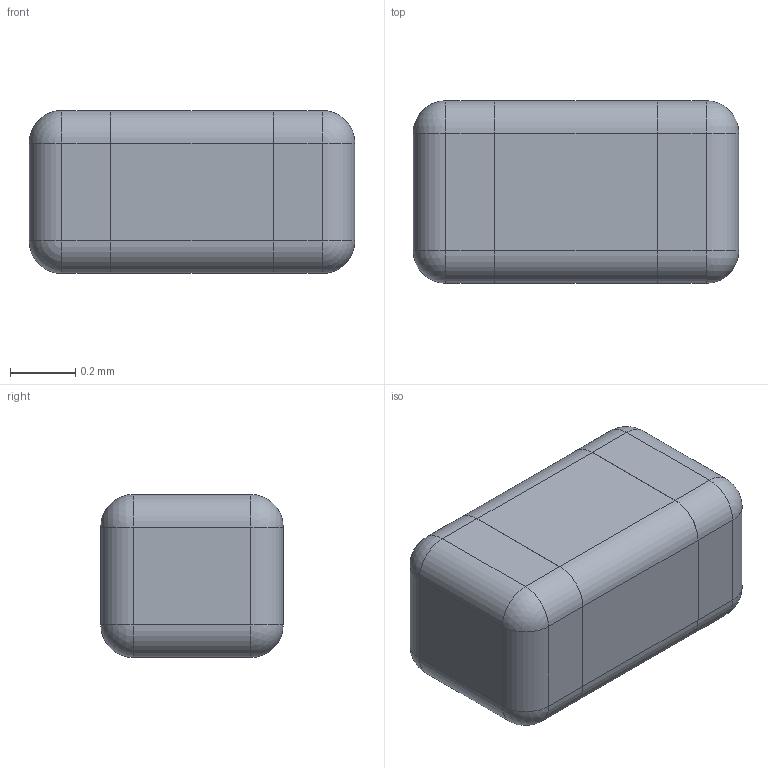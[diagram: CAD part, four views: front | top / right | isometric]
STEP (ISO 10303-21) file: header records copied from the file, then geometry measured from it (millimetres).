
FILE_DESCRIPTION (( 'STEP AP214' ), '1' );
FILE_NAME ( 'CAPC1005X56.STEP', '2013-08-13T09:45:44', ( '' ), ( '' ), 'FPX Expert 2013', 'PCB Libraries', '' );
FILE_SCHEMA (( 'AUTOMOTIVE_DESIGN' ));
Length unit declared in the file: millimetre
Products named in the file (1): CAPC1005X56
Bounding box: 1 x 0.56 x 0.5 mm (x, y, z)
Volume: 0.3 mm3; surface area: 3.4 mm2
Topology: 3 solids, 3 shells, 46 faces, 104 edges, 56 vertices
Faces by surface type: cylinder 20, plane 18, sphere 8
Entity records: 1380 total; most frequent: DIRECTION 230, CARTESIAN_POINT 199, ORIENTED_EDGE 192, EDGE_CURVE 96, AXIS2_PLACEMENT_3D 87, VERTEX_POINT 56, VECTOR 56, LINE 56
